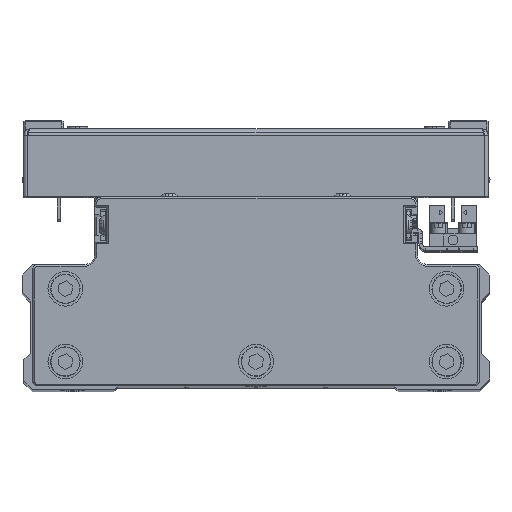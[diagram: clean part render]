
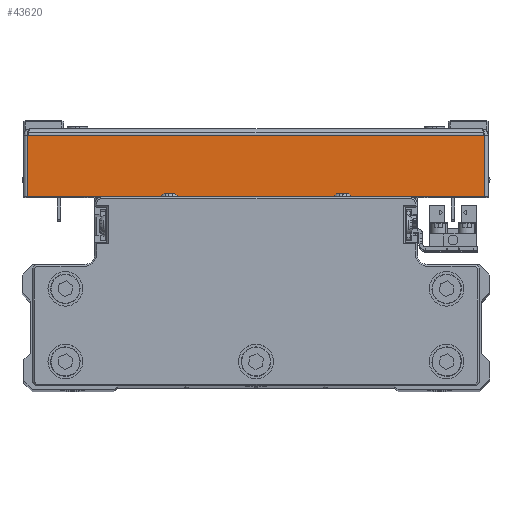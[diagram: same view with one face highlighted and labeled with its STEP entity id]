
A CAD part, top view. The second image highlights one B-rep face of the part: STEP entity #43620.
In plain terms, the highlighted planar face has unit normal (0, 0, 1) as drawn and (1, 0, 0) by its records, which use the part's own axes.
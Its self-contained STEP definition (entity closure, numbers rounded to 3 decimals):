
#1304 = VECTOR ( 'NONE', #37864, 1000. ) ;
#1422 = CARTESIAN_POINT ( 'NONE',  ( 100., 1., 65.929 ) ) ;
#1762 = EDGE_CURVE ( 'NONE', #35162, #42224, #43740, .T. ) ;
#3239 = PLANE ( 'NONE',  #3694 ) ;
#3694 = AXIS2_PLACEMENT_3D ( 'NONE', #16790, #30333, #43871 ) ;
#4418 = CARTESIAN_POINT ( 'NONE',  ( 100., 0., -65.929 ) ) ;
#5180 = CARTESIAN_POINT ( 'NONE',  ( 100., 0., 65.929 ) ) ;
#10756 = LINE ( 'NONE', #24323, #1304 ) ;
#13323 = EDGE_LOOP ( 'NONE', ( #15883, #43206, #26092, #21309 ) ) ;
#13328 = CARTESIAN_POINT ( 'NONE',  ( 100., 1., 67. ) ) ;
#13414 = EDGE_CURVE ( 'NONE', #42089, #34433, #10756, .T. ) ;
#13586 = VECTOR ( 'NONE', #17972, 1000. ) ;
#15883 = ORIENTED_EDGE ( 'NONE', *, *, #1762, .F. ) ;
#16790 = CARTESIAN_POINT ( 'NONE',  ( 100., 0., 0. ) ) ;
#17972 = DIRECTION ( 'NONE',  ( 0., 1., 0. ) ) ;
#18752 = DIRECTION ( 'NONE',  ( 0., 1., 0. ) ) ;
#21309 = ORIENTED_EDGE ( 'NONE', *, *, #41078, .F. ) ;
#23410 = VECTOR ( 'NONE', #18752, 1000. ) ;
#24323 = CARTESIAN_POINT ( 'NONE',  ( 100., 18.5, 0. ) ) ;
#24799 = VECTOR ( 'NONE', #26894, 1000. ) ;
#26092 = ORIENTED_EDGE ( 'NONE', *, *, #13414, .T. ) ;
#26894 = DIRECTION ( 'NONE',  ( 0., 0., 1. ) ) ;
#30333 = DIRECTION ( 'NONE',  ( -1., 0., 0. ) ) ;
#32195 = CARTESIAN_POINT ( 'NONE',  ( 100., 18.5, 65.929 ) ) ;
#33646 = FACE_OUTER_BOUND ( 'NONE', #13323, .T. ) ;
#34433 = VERTEX_POINT ( 'NONE', #32195 ) ;
#34845 = LINE ( 'NONE', #4418, #13586 ) ;
#35162 = VERTEX_POINT ( 'NONE', #38717 ) ;
#35609 = LINE ( 'NONE', #5180, #23410 ) ;
#37864 = DIRECTION ( 'NONE',  ( 0., 0., 1. ) ) ;
#38717 = CARTESIAN_POINT ( 'NONE',  ( 100., 1., -65.929 ) ) ;
#40329 = CARTESIAN_POINT ( 'NONE',  ( 100., 18.5, -65.929 ) ) ;
#41078 = EDGE_CURVE ( 'NONE', #42224, #34433, #35609, .T. ) ;
#42089 = VERTEX_POINT ( 'NONE', #40329 ) ;
#42224 = VERTEX_POINT ( 'NONE', #1422 ) ;
#42984 = EDGE_CURVE ( 'NONE', #35162, #42089, #34845, .T. ) ;
#43206 = ORIENTED_EDGE ( 'NONE', *, *, #42984, .T. ) ;
#43620 = ADVANCED_FACE ( 'NONE', ( #33646 ), #3239, .F. ) ;
#43740 = LINE ( 'NONE', #13328, #24799 ) ;
#43871 = DIRECTION ( 'NONE',  ( 0., -1., 0. ) ) ;
